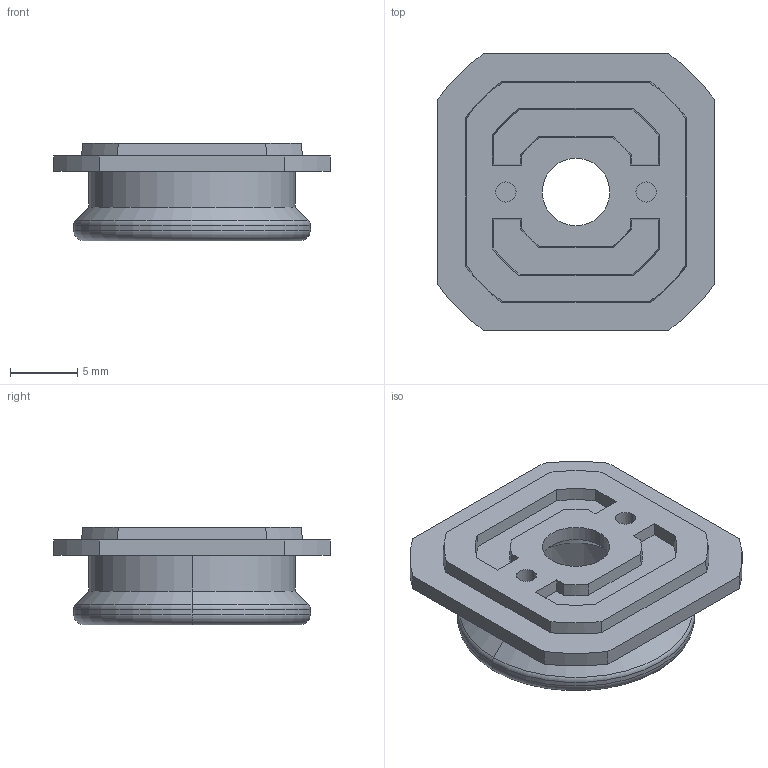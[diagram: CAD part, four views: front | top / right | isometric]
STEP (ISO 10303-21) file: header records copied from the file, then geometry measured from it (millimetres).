
FILE_DESCRIPTION (( 'STEP AP203' ), '1' );
FILE_NAME ('11.05.818-5 Click Button Panel Connector Grey PC Male ø20.5x20.5mm.STEP', '2024-12-18T13:05:05', ( '' ), ( '' ), 'SwSTEP 2.0', 'SolidWorks 2024', '' );
FILE_SCHEMA (( 'CONFIG_CONTROL_DESIGN' ));
Length unit declared in the file: millimetre
Products named in the file (1): 11.05.818-5 Click Button Panel Connector Grey PC Male ø20.5x20.5mm
Bounding box: 20.5 x 20.5 x 7.25 mm (x, y, z)
Surface area: 1521.8 mm2 (no closed solid volume)
Topology: 0 solids, 1 shells, 69 faces, 174 edges, 112 vertices
Faces by surface type: plane 31, cone 18, cylinder 14, torus 6
Entity records: 2187 total; most frequent: CARTESIAN_POINT 428, DIRECTION 360, ORIENTED_EDGE 344, EDGE_CURVE 174, AXIS2_PLACEMENT_3D 140, VERTEX_POINT 112, LINE 80, VECTOR 80
